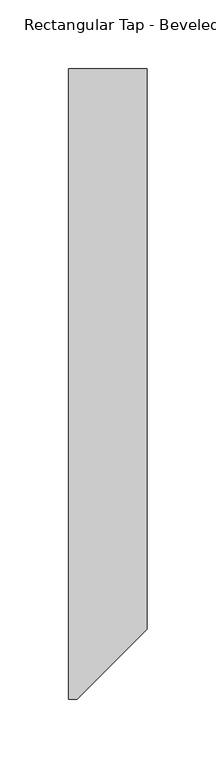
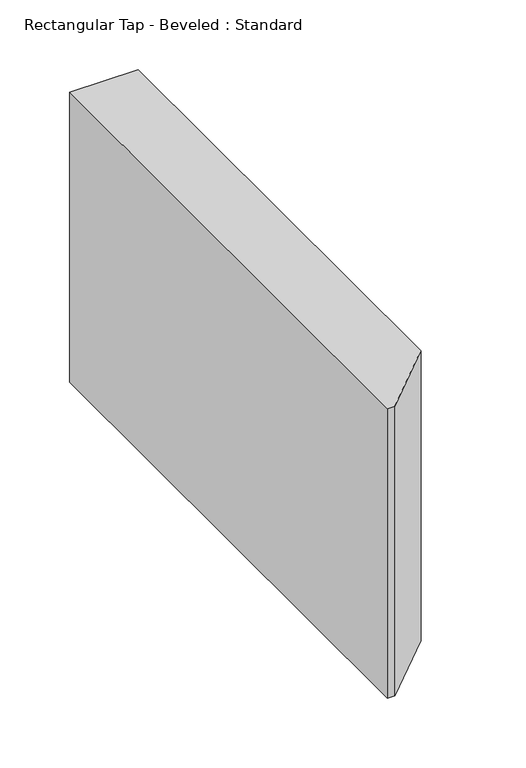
"""IFC4 building model written with IfcOpenShell, lengths in millimetres: duct fitting geometry, Rectangular Tap - Beveled : Standard."""

from ifc_helpers import new_model, si_unit, frame, origin, place, context, project, spatial, polyline, outline, extrude, source, transform, mapped, element, save


def rectangular_tap_beveled_standard_a3f55f82(model_context):
    return source(origin(), model_context, "Body", "SweptSolid", [
        extrude(outline(polyline([(50.8, 203.2), (50.8, -203.2), (0.0, -254.0), (-6.096, -254.0), (-6.096, 203.2), (50.8, 203.2)])), frame((0.0, 0.0, -127.0), z_axis=(0.0, 0.0, 1.0), x_axis=(1.0, 0.0, 0.0)), (0.0, 0.0, 1.0), 254.0),
    ])


if __name__ == "__main__":
    model = new_model("IFC4")
    model_context = context("Model", 3, world=origin())
    ifc_project = project(units=[si_unit("LENGTHUNIT", "METRE", prefix="MILLI")], contexts=[model_context])
    site = spatial("IfcSite", under=ifc_project)
    building = spatial("IfcBuilding", under=site)
    placement = place(None, origin())
    rectangular_tap_beveled_standard_shape = rectangular_tap_beveled_standard_a3f55f82(model_context)
    element("IfcDuctFitting", 1, ObjectType="Rectangular Tap - Beveled : Standard", at=placement, inside=building, context=model_context, shape_type="MappedRepresentation", body=[
        mapped(rectangular_tap_beveled_standard_shape, transform((0.0, 0.0, 0.0), x_axis=(1.0, 0.0, 0.0), y_axis=(0.0, 1.0, 0.0), z_axis=(0.0, 0.0, 1.0))),
    ])
    save(model, "model.ifc")
